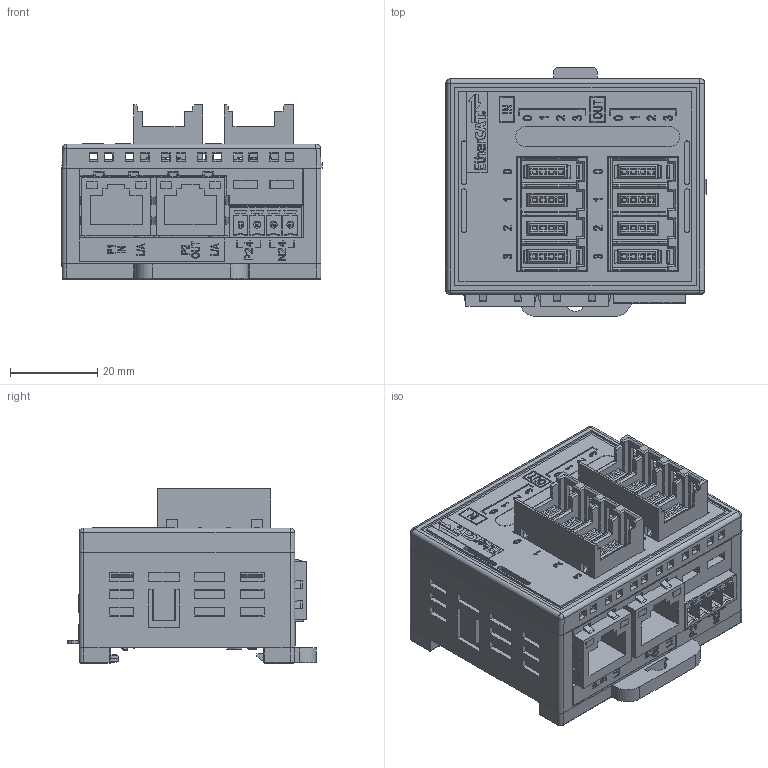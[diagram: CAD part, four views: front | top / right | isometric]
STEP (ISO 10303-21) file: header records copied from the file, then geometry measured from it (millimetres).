
FILE_DESCRIPTION((''),'2;1');
FILE_NAME('ECCEP44','2026-05-11T14:11:40',('gijyu181'),(''),'CREO PARAMETRIC BY PTC INC, 2018050','CREO PARAMETRIC BY PTC INC, 2018050','');
FILE_SCHEMA(('CONFIG_CONTROL_DESIGN','SHAPE_APPEARANCE_LAYERS_GROUPS'));
Products named in the file (1): ECCEP44
Bounding box: 59.75 x 57.15 x 40 mm (x, y, z)
Volume: 70223.1 mm3; surface area: 41027.8 mm2
Topology: 1 solids, 15 shells, 7455 faces, 21137 edges, 13987 vertices
Faces by surface type: plane 5706, cylinder 899, extrusion 736, sphere 44, torus 26, bspline 24, cone 20
Entity records: 302841 total; most frequent: CARTESIAN_POINT 52104, ORIENTED_EDGE 42246, DIRECTION 35282, EDGE_CURVE 21127, VECTOR 18102, LINE 17366, VERTEX_POINT 13987, PRESENTATION_STYLE_ASSIGNMENT 11044
